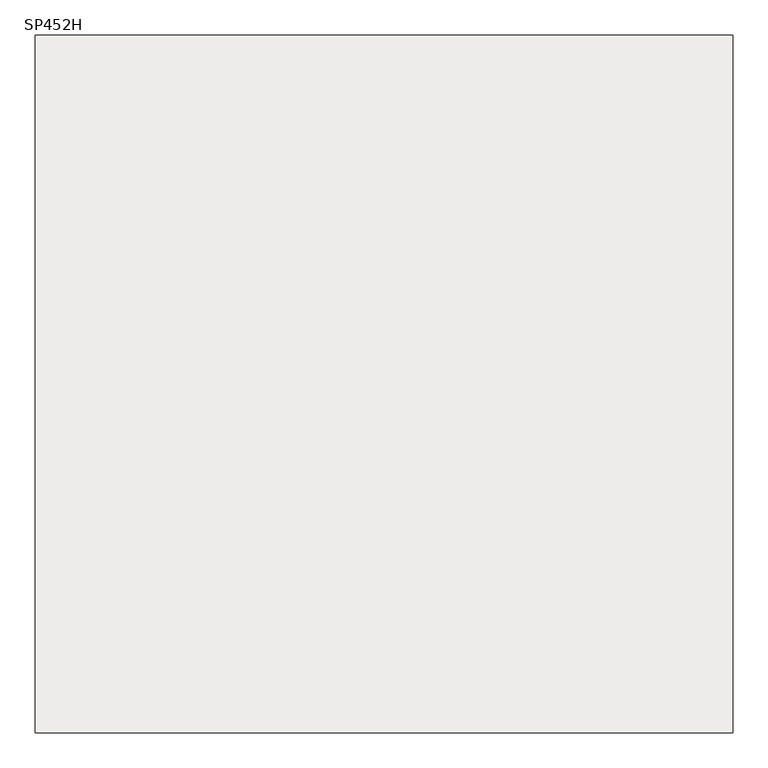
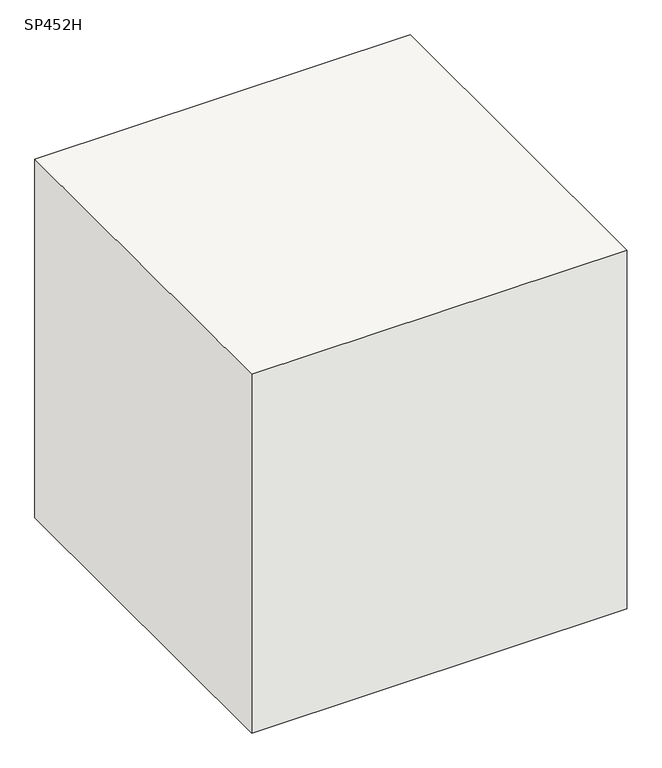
"""IFC4 building model written with IfcOpenShell, lengths in millimetres: slab geometry, 柱形_SP : SP452H."""

from ifc_helpers import new_model, si_unit, frame, origin, place, context, project, spatial, polyline, outline, extrude, source, transform, mapped, element, save


def sp452h_bbb9569a(model_context):
    return source(origin(), model_context, "Body", "SweptSolid", [
        extrude(outline(polyline([(495.0, 495.0), (495.0, -495.0), (-495.0, -495.0), (-495.0, 495.0), (495.0, 495.0)])), frame((0.0, 0.0, -1000.0), z_axis=(0.0, 0.0, 1.0), x_axis=(1.0, 0.0, 0.0)), (0.0, 0.0, 1.0), 1000.0),
    ])


if __name__ == "__main__":
    model = new_model("IFC4")
    model_context = context("Model", 3, world=origin())
    ifc_project = project(units=[si_unit("LENGTHUNIT", "METRE", prefix="MILLI")], contexts=[model_context])
    site = spatial("IfcSite", under=ifc_project)
    building = spatial("IfcBuilding", under=site)
    placement = place(None, origin())
    sp452h_shape = sp452h_bbb9569a(model_context)
    element("IfcSlab", 1, ObjectType="柱形_SP : SP452H", at=placement, inside=building, context=model_context, shape_type="MappedRepresentation", body=[
        mapped(sp452h_shape, transform((0.0, 0.0, 0.0), x_axis=(1.0, 0.0, 0.0), y_axis=(0.0, 1.0, 0.0), z_axis=(0.0, 0.0, 1.0))),
    ])
    save(model, "model.ifc")
